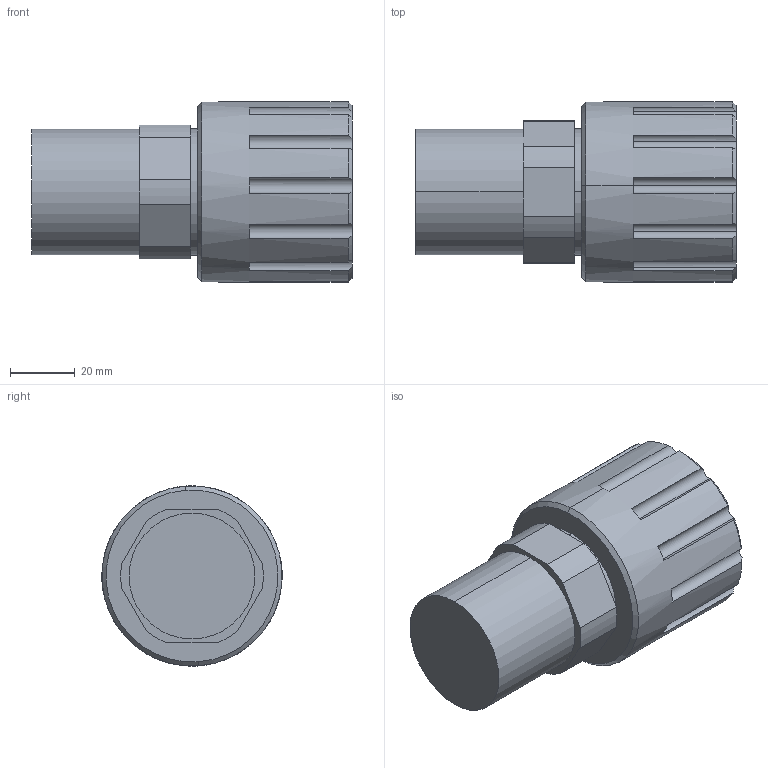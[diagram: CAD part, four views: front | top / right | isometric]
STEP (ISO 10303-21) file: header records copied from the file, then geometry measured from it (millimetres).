
FILE_DESCRIPTION (( 'STEP AP214' ), '1' );
FILE_NAME ('20 FLARETEC FITTING.STEP', '2012-11-30T20:29:56', ( '' ), ( '' ), 'SwSTEP 2.0', 'SolidWorks 2012', '' );
FILE_SCHEMA (( 'AUTOMOTIVE_DESIGN' ));
Length unit declared in the file: inch
Products named in the file (1): 20 FLARETEC FITTING
Bounding box: 98.8 x 55.57 x 55.57 mm (x, y, z)
Volume: 160581.8 mm3; surface area: 22826.5 mm2
Topology: 1 solids, 1 shells, 69 faces, 187 edges, 124 vertices
Faces by surface type: cylinder 31, plane 24, cone 14
Entity records: 2584 total; most frequent: CARTESIAN_POINT 507, DIRECTION 399, ORIENTED_EDGE 374, EDGE_CURVE 187, AXIS2_PLACEMENT_3D 168, VERTEX_POINT 124, CIRCLE 98, EDGE_LOOP 73
